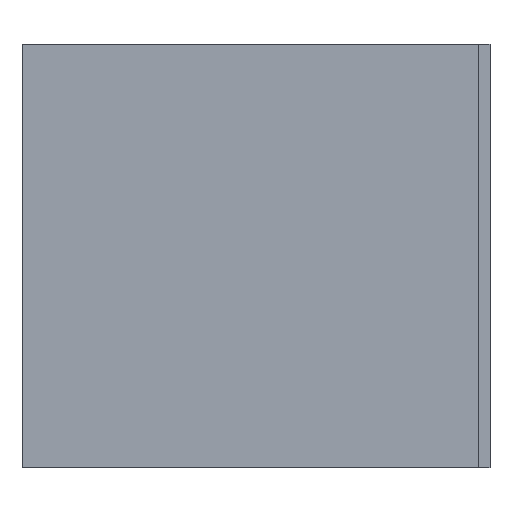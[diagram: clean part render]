
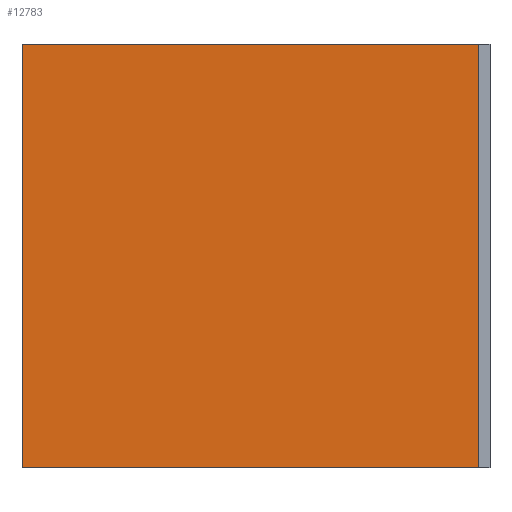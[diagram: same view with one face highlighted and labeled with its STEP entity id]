
A CAD part, left-side view. The second image highlights one B-rep face of the part: STEP entity #12783.
In plain terms, the highlighted planar face has unit normal (-1, 0, 0).
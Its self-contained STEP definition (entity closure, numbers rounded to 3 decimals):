
#114 = LINE ( 'NONE', #2886, #16977 ) ;
#710 = CARTESIAN_POINT ( 'NONE',  ( 0., 24.25, 22.5 ) ) ;
#796 = DIRECTION ( 'NONE',  ( 0., 0., 1. ) ) ;
#903 = VECTOR ( 'NONE', #8319, 1000. ) ;
#1241 = CARTESIAN_POINT ( 'NONE',  ( 0., 24.25, -22.5 ) ) ;
#1694 = CARTESIAN_POINT ( 'NONE',  ( 0., -24.25, -22.5 ) ) ;
#2675 = EDGE_CURVE ( 'NONE', #4986, #19843, #114, .T. ) ;
#2886 = CARTESIAN_POINT ( 'NONE',  ( 0., -24.25, 22.5 ) ) ;
#3267 = DIRECTION ( 'NONE',  ( 0., -1., 0. ) ) ;
#3985 = ORIENTED_EDGE ( 'NONE', *, *, #15330, .F. ) ;
#4644 = AXIS2_PLACEMENT_3D ( 'NONE', #13060, #13056, #13036 ) ;
#4986 = VERTEX_POINT ( 'NONE', #10038 ) ;
#5011 = CARTESIAN_POINT ( 'NONE',  ( 0., -24.25, 22.5 ) ) ;
#6037 = FACE_OUTER_BOUND ( 'NONE', #12257, .T. ) ;
#8319 = DIRECTION ( 'NONE',  ( 0., 1., 0. ) ) ;
#9660 = CARTESIAN_POINT ( 'NONE',  ( 0., -24.25, -22.5 ) ) ;
#9849 = DIRECTION ( 'NONE',  ( 0., 0., -1. ) ) ;
#10005 = CARTESIAN_POINT ( 'NONE',  ( 0., -24.25, 22.5 ) ) ;
#10038 = CARTESIAN_POINT ( 'NONE',  ( 0., 24.25, 22.5 ) ) ;
#10937 = VERTEX_POINT ( 'NONE', #1694 ) ;
#11132 = ORIENTED_EDGE ( 'NONE', *, *, #2675, .F. ) ;
#12081 = LINE ( 'NONE', #710, #20914 ) ;
#12257 = EDGE_LOOP ( 'NONE', ( #3985, #16764, #11132, #15143 ) ) ;
#12715 = LINE ( 'NONE', #10005, #17133 ) ;
#12783 = ADVANCED_FACE ( 'NONE', ( #6037 ), #13535, .T. ) ;
#13036 = DIRECTION ( 'NONE',  ( 0., 0., 1. ) ) ;
#13056 = DIRECTION ( 'NONE',  ( -1., 0., 0. ) ) ;
#13060 = CARTESIAN_POINT ( 'NONE',  ( 0., 24.25, -22.5 ) ) ;
#13535 = PLANE ( 'NONE',  #4644 ) ;
#14346 = EDGE_CURVE ( 'NONE', #19843, #10937, #12715, .T. ) ;
#14407 = LINE ( 'NONE', #9660, #903 ) ;
#15143 = ORIENTED_EDGE ( 'NONE', *, *, #18344, .F. ) ;
#15330 = EDGE_CURVE ( 'NONE', #10937, #19943, #14407, .T. ) ;
#16764 = ORIENTED_EDGE ( 'NONE', *, *, #14346, .F. ) ;
#16977 = VECTOR ( 'NONE', #3267, 1000. ) ;
#17133 = VECTOR ( 'NONE', #9849, 1000. ) ;
#18344 = EDGE_CURVE ( 'NONE', #19943, #4986, #12081, .T. ) ;
#19843 = VERTEX_POINT ( 'NONE', #5011 ) ;
#19943 = VERTEX_POINT ( 'NONE', #1241 ) ;
#20914 = VECTOR ( 'NONE', #796, 1000. ) ;
